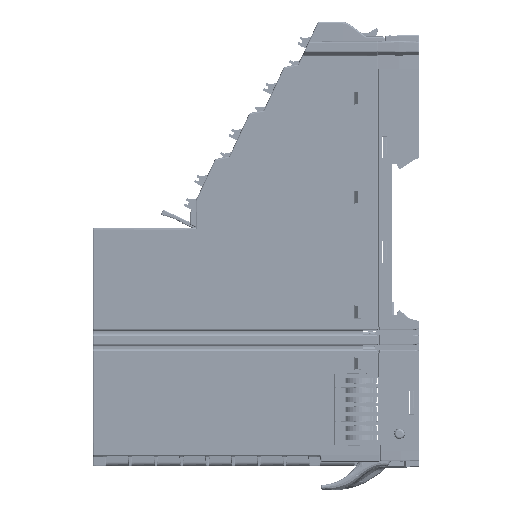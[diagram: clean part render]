
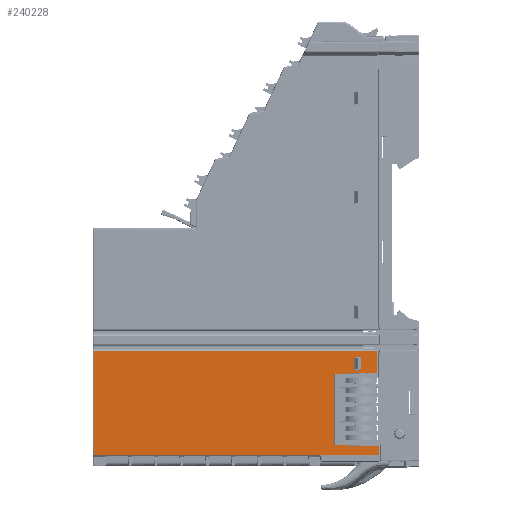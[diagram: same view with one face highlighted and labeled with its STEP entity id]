
A CAD part, left-side view. The second image highlights one B-rep face of the part: STEP entity #240228.
In plain terms, the highlighted planar face has unit normal (-1, 0, 0).
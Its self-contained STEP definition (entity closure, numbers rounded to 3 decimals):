
#27653=CARTESIAN_POINT('',(-6.45,45.07,-49.599));
#52203=DIRECTION('',(0.,0.,1.));
#52204=VECTOR('',#52203,5.05);
#52205=CARTESIAN_POINT('',(-6.45,-20.73,-30.632));
#52206=LINE('',#52205,#52204);
#52223=DIRECTION('',(0.,1.,-0.017));
#52224=VECTOR('',#52223,9.84);
#52225=CARTESIAN_POINT('',(-6.45,-20.73,-30.632));
#52226=LINE('',#52225,#52224);
#52227=DIRECTION('',(0.,0.,-1.));
#52228=VECTOR('',#52227,16.646);
#52229=CARTESIAN_POINT('',(-6.45,-10.891,-30.802));
#52230=LINE('',#52229,#52228);
#52231=DIRECTION('',(0.,-1.,-0.017));
#52232=VECTOR('',#52231,10.341);
#52233=CARTESIAN_POINT('',(-6.45,-10.891,-47.448));
#52234=LINE('',#52233,#52232);
#52239=DIRECTION('',(0.,1.,0.));
#52240=VECTOR('',#52239,65.8);
#52241=CARTESIAN_POINT('',(-6.45,-20.73,-25.582));
#52242=LINE('',#52241,#52240);
#52274=DIRECTION('',(0.,0.,-1.));
#52275=VECTOR('',#52274,24.017);
#52276=CARTESIAN_POINT('',(-6.45,45.07,-25.582));
#52277=LINE('',#52276,#52275);
#54520=DIRECTION('',(0.,-1.,0.));
#54521=VECTOR('',#54520,66.3);
#54522=CARTESIAN_POINT('',(-6.45,45.07,-49.599));
#54523=LINE('',#54522,#54521);
#54824=DIRECTION('',(0.,0.,1.));
#54825=VECTOR('',#54824,1.972);
#54826=CARTESIAN_POINT('',(-6.45,-21.23,-49.599));
#54827=LINE('',#54826,#54825);
#60725=DIRECTION('',(0.,0.,1.));
#60726=VECTOR('',#60725,3.096);
#60727=CARTESIAN_POINT('',(-6.45,-15.502,
-29.978));
#60728=LINE('',#60727,#60726);
#60733=DIRECTION('',(0.,1.,0.));
#60734=VECTOR('',#60733,1.596);
#60735=CARTESIAN_POINT('',(-6.45,-17.098,
-29.978));
#60736=LINE('',#60735,#60734);
#60737=DIRECTION('',(0.,0.,-1.));
#60738=VECTOR('',#60737,3.096);
#60739=CARTESIAN_POINT('',(-6.45,-17.098,
-26.882));
#60740=LINE('',#60739,#60738);
#60749=DIRECTION('',(0.,-1.,0.));
#60750=VECTOR('',#60749,1.596);
#60751=CARTESIAN_POINT('',(-6.45,-15.502,
-26.882));
#60752=LINE('',#60751,#60750);
#119630=VERTEX_POINT('',#27653);
#121082=CARTESIAN_POINT('',(-6.45,-15.502,
-26.882));
#121083=VERTEX_POINT('',#121082);
#121084=CARTESIAN_POINT('',(-6.45,-17.098,
-26.882));
#121085=VERTEX_POINT('',#121084);
#121086=CARTESIAN_POINT('',(-6.45,-15.502,
-29.978));
#121087=VERTEX_POINT('',#121086);
#121088=CARTESIAN_POINT('',(-6.45,-17.098,
-29.978));
#121089=VERTEX_POINT('',#121088);
#121090=CARTESIAN_POINT('',(-6.45,-20.73,-25.582));
#121091=CARTESIAN_POINT('',(-6.45,45.07,-25.582));
#121092=VERTEX_POINT('',#121090);
#121093=VERTEX_POINT('',#121091);
#121094=CARTESIAN_POINT('',(-6.45,-20.73,-30.632));
#121095=VERTEX_POINT('',#121094);
#121096=CARTESIAN_POINT('',(-6.45,-10.891,-30.802));
#121097=VERTEX_POINT('',#121096);
#121098=CARTESIAN_POINT('',(-6.45,-10.891,-47.448));
#121099=VERTEX_POINT('',#121098);
#121100=CARTESIAN_POINT('',(-6.45,-21.23,-47.627));
#121101=VERTEX_POINT('',#121100);
#121102=CARTESIAN_POINT('',(-6.45,-21.23,-49.599));
#121103=VERTEX_POINT('',#121102);
#240198=CARTESIAN_POINT('',(-6.45,0.,0.));
#240199=DIRECTION('',(1.,0.,0.));
#240200=DIRECTION('',(0.,0.,1.));
#240201=AXIS2_PLACEMENT_3D('',#240198,#240199,#240200);
#240202=PLANE('',#240201);
#240204=ORIENTED_EDGE('',*,*,#240203,.F.);
#240205=ORIENTED_EDGE('',*,*,#240162,.F.);
#240206=ORIENTED_EDGE('',*,*,#240185,.T.);
#240207=ORIENTED_EDGE('',*,*,#157810,.T.);
#240209=ORIENTED_EDGE('',*,*,#240208,.T.);
#240211=ORIENTED_EDGE('',*,*,#240210,.F.);
#240213=ORIENTED_EDGE('',*,*,#240212,.F.);
#240215=ORIENTED_EDGE('',*,*,#240214,.F.);
#240216=EDGE_LOOP('',(#240204,#240205,#240206,#240207,#240209,#240211,#240213,
#240215));
#240217=FACE_OUTER_BOUND('',#240216,.F.);
#240219=ORIENTED_EDGE('',*,*,#240218,.F.);
#240221=ORIENTED_EDGE('',*,*,#240220,.F.);
#240223=ORIENTED_EDGE('',*,*,#240222,.F.);
#240225=ORIENTED_EDGE('',*,*,#240224,.F.);
#240226=EDGE_LOOP('',(#240219,#240221,#240223,#240225));
#240227=FACE_BOUND('',#240226,.F.);
#240228=ADVANCED_FACE('',(#240217,#240227),#240202,.F.);
#157810=EDGE_CURVE('',#121097,#121099,#52230,.T.);
#240162=EDGE_CURVE('',#121095,#121092,#52206,.T.);
#240185=EDGE_CURVE('',#121095,#121097,#52226,.T.);
#240203=EDGE_CURVE('',#121092,#121093,#52242,.T.);
#240208=EDGE_CURVE('',#121099,#121101,#52234,.T.);
#240210=EDGE_CURVE('',#121103,#121101,#54827,.T.);
#240212=EDGE_CURVE('',#119630,#121103,#54523,.T.);
#240214=EDGE_CURVE('',#121093,#119630,#52277,.T.);
#240218=EDGE_CURVE('',#121087,#121083,#60728,.T.);
#240220=EDGE_CURVE('',#121089,#121087,#60736,.T.);
#240222=EDGE_CURVE('',#121085,#121089,#60740,.T.);
#240224=EDGE_CURVE('',#121083,#121085,#60752,.T.);
